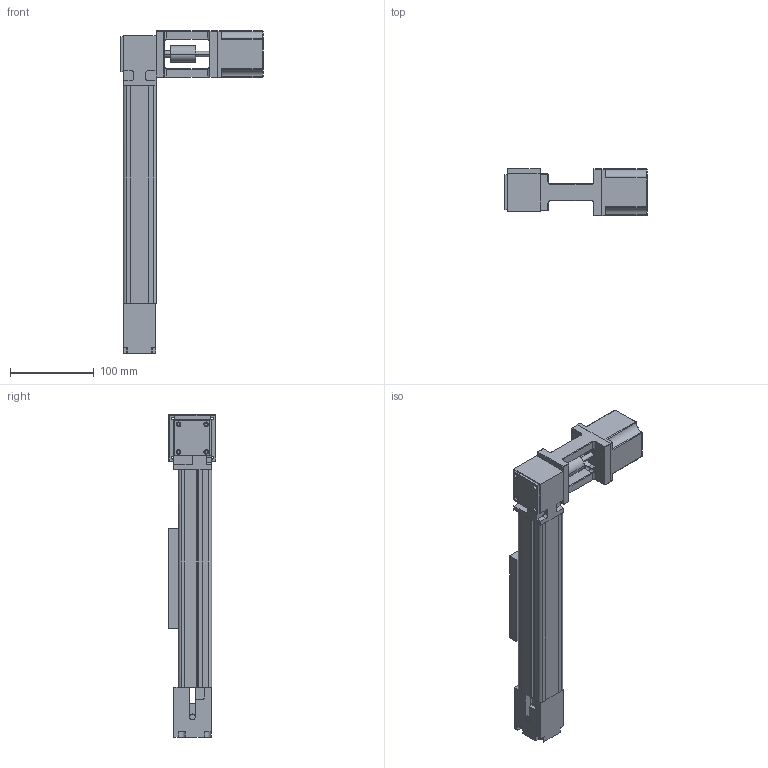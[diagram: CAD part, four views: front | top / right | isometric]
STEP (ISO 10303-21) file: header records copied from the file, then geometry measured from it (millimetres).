
FILE_DESCRIPTION (( 'STEP AP203' ), '1' );
FILE_NAME ('MDL40B-100.STEP', '2013-11-02T02:28:03', ( '微软用户' ), ( '微软中国' ), 'SwSTEP 2.0', 'SolidWorks 2010', '' );
FILE_SCHEMA (( 'CONFIG_CONTROL_DESIGN' ));
Length unit declared in the file: millimetre
Products named in the file (1): MDL40B-100
Bounding box: 170 x 57.05 x 386.05 mm (x, y, z)
Volume: 795068.6 mm3; surface area: 169349.6 mm2
Topology: 1 solids, 3 shells, 522 faces, 1331 edges, 811 vertices
Faces by surface type: plane 284, cylinder 192, cone 24, bspline 10, sphere 8, torus 4
Entity records: 17116 total; most frequent: CARTESIAN_POINT 4353, DIRECTION 2677, ORIENTED_EDGE 2610, EDGE_CURVE 1305, AXIS2_PLACEMENT_3D 911, VECTOR 855, LINE 855, VERTEX_POINT 811
